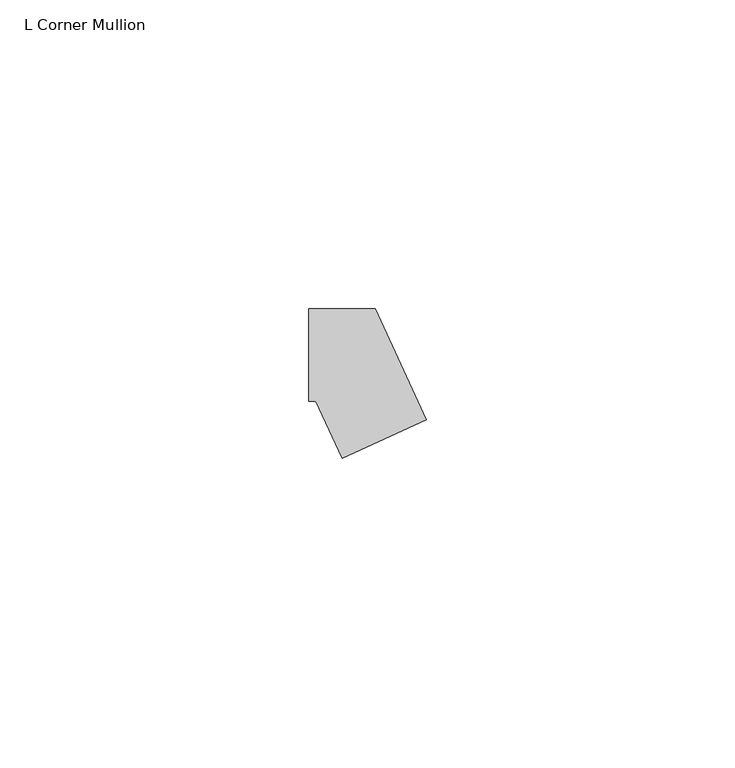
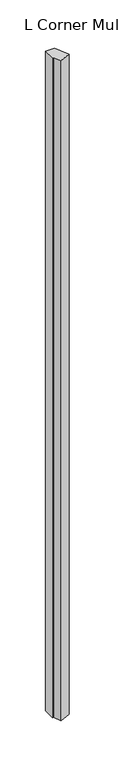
"""IFC4 building model written with IfcOpenShell, lengths in millimetres: member geometry, L Corner Mullion : ARQ_HERR_15X6mm."""

from ifc_helpers import new_model, si_unit, frame, origin, place, context, project, spatial, polyline, outline, extrude, source, transform, mapped, element, save


def l_corner_mullion_9e21fd81(model_context):
    return source(origin(), model_context, "Body", "SweptSolid", [
        extrude(outline(polyline([(-0.5775282, -16.7605627), (-4.8156946, -7.5), (-6.0, -7.5), (-6.0, 7.5), (4.8156946, 7.5), (13.0619332, -10.5183601), (-0.5775282, -16.7605627)])), frame((0.0, 0.0, -876.0), z_axis=(0.0, 0.0, 1.0), x_axis=(1.0, 0.0, 0.0)), (0.0, 0.0, 1.0), 876.0),
    ])


if __name__ == "__main__":
    model = new_model("IFC4")
    model_context = context("Model", 3, world=origin())
    ifc_project = project(units=[si_unit("LENGTHUNIT", "METRE", prefix="MILLI")], contexts=[model_context])
    site = spatial("IfcSite", under=ifc_project)
    building = spatial("IfcBuilding", under=site)
    placement = place(None, origin())
    l_corner_mullion_shape = l_corner_mullion_9e21fd81(model_context)
    element("IfcMember", 1, ObjectType="L Corner Mullion : ARQ_HERR_15X6mm", at=placement, inside=building, context=model_context, shape_type="MappedRepresentation", body=[
        mapped(l_corner_mullion_shape, transform((0.0, 0.0, 0.0), x_axis=(1.0, 0.0, 0.0), y_axis=(0.0, 1.0, 0.0), z_axis=(0.0, 0.0, 1.0))),
    ])
    save(model, "model.ifc")
